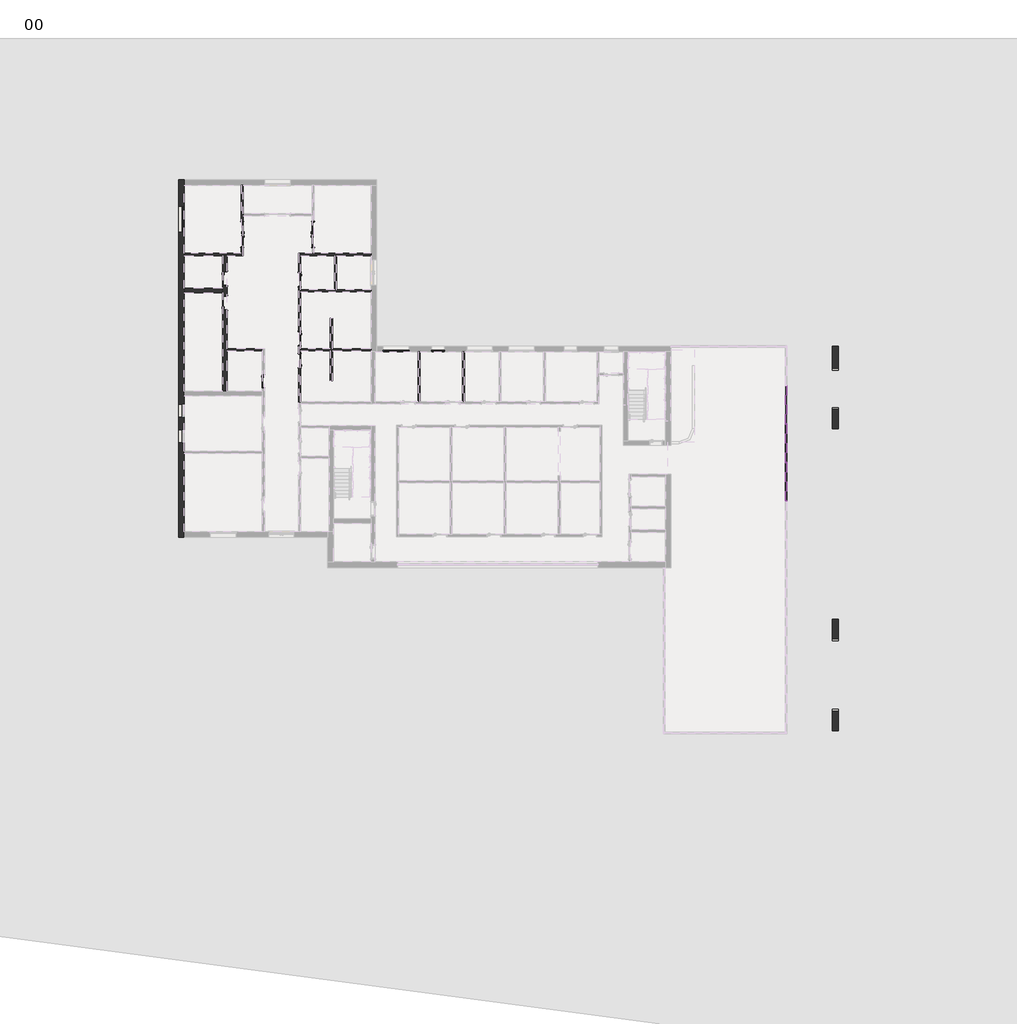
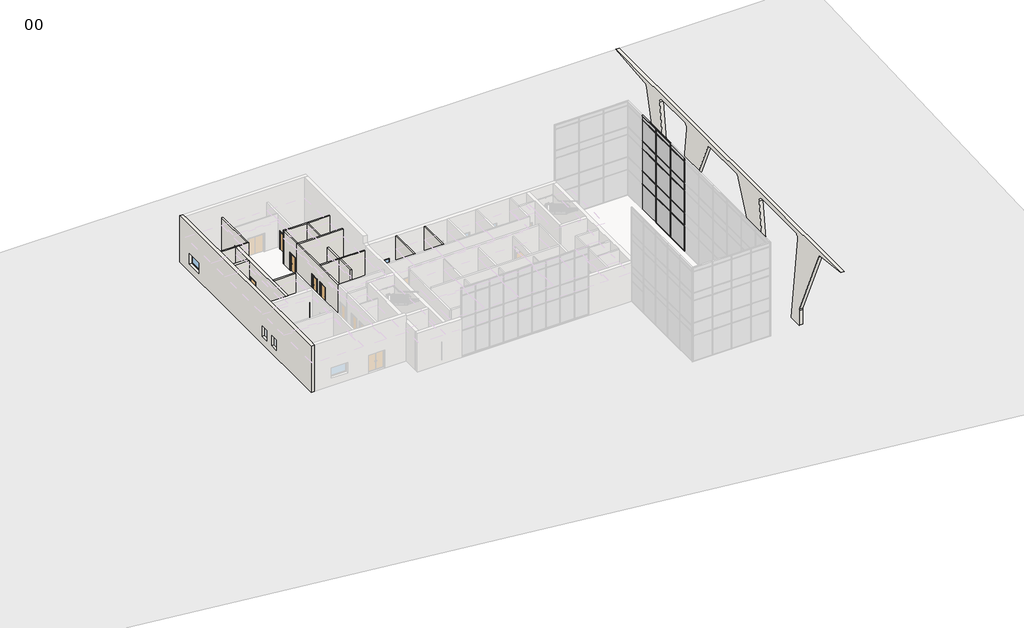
# One storey, part 6 of 11: 40 members, 18 plates, 17 walls, 8 doors, 3 windows.
"""IFC4 building model written with IfcOpenShell, lengths in millimetres."""

from ifc_helpers import new_model, si_unit, point, frame, frame_2d, origin, origin_with_axes, place, context, project, spatial, polyline, circle_curve, trimmed, segment, composite_curve, outline, extrude, faceted_brep, transform, mapped, element, save
from components import doors_intdbl_3_1810x2110mm_64ebe9ef, doors_intdbl_3_1810x2110mm_1437e5d7, doors_intsgl_1_1010x2110mm_7920e6b8, doors_intsgl_1_1010x2110mm_12a6edaf, doors_intsgl_1_1010x2110mm_5517da8e, doors_intsgl_1_1010x2110mm_5eebe40c, rectangular_mullion_curtainwallmullion_rectangular_generic_8ae0e668, rectangular_mullion_curtainwallmullion_rectangular_generic_08fbcc14, rectangular_mullion_curtainwallmullion_rectangular_generic_5675a122, rectangular_mullion_curtainwallmullion_rectangular_generic_12ad56c0, rectangular_mullion_curtainwallmullion_rectangular_generic_bd817207, rectangular_mullion_curtainwallmullion_rectangular_generic_654ac675, rectangular_mullion_curtainwallmullion_rectangular_generic_c0600e94, rectangular_mullion_curtainwallmullion_rectangular_generic_c640f651, rectangular_mullion_curtainwallmullion_rectangular_generic_b2d53351, system_panel_curtainpanel_glazed_34fb785a, system_panel_curtainpanel_glazed_62d472f1, system_panel_curtainpanel_glazed_9c2ad216, system_panel_curtainpanel_solid_fc584997, system_panel_curtainpanel_solid_60141125, system_panel_curtainpanel_solid_5de49f81, windows_concept_plain_sgl_1810x1210mm_7f7241d7, windows_concept_plain_sgl_910x1210mm_ef0b7ad2

model = new_model("IFC4")

# Units and contexts
model_context = context("Model", 3, world=origin())
ifc_project = project(units=[si_unit("LENGTHUNIT", "METRE", prefix="MILLI")], contexts=[model_context])

# Site, building, storey
site = spatial("IfcSite", under=ifc_project)
building = spatial("IfcBuilding", under=site)
storey = spatial("IfcBuildingStorey", under=building, Name="00", Elevation=0.0)

# Doors
placement = place(None, origin())
doors_intdbl_3_1810x2110mm_shape = doors_intdbl_3_1810x2110mm_64ebe9ef(model_context)
doors_intdbl_3_1810x2110mm_2_shape = doors_intdbl_3_1810x2110mm_1437e5d7(model_context)
element("IfcDoor", 1, ObjectType="Doors_IntDbl_3 : 1810x2110mm", at=placement, inside=storey, context=model_context, shape_type="MappedRepresentation", body=[
    mapped(doors_intdbl_3_1810x2110mm_shape, transform((420937.3206883, -373289.5026386, 0.0), x_axis=(0.0, 1.0, 0.0), y_axis=(-1.0, 0.0, 0.0), z_axis=(0.0, 0.0, 1.0))),
    mapped(doors_intdbl_3_1810x2110mm_2_shape, transform((420937.3206883, -373289.5026386, 0.0), x_axis=(0.0, 1.0, 0.0), y_axis=(-1.0, 0.0, 0.0), z_axis=(0.0, 0.0, 1.0))),
])
element("IfcDoor", 2, ObjectType="Doors_IntDbl_3 : 1810x2110mm", at=placement, inside=storey, context=model_context, shape_type="MappedRepresentation", body=[
    mapped(doors_intdbl_3_1810x2110mm_shape, transform((415935.3206883, -373289.5026386, 0.0), x_axis=(0.0, -1.0, 0.0), y_axis=(1.0, 0.0, 0.0), z_axis=(0.0, 0.0, 1.0))),
    mapped(doors_intdbl_3_1810x2110mm_2_shape, transform((415935.3206883, -373289.5026386, 0.0), x_axis=(0.0, -1.0, 0.0), y_axis=(1.0, 0.0, 0.0), z_axis=(0.0, 0.0, 1.0))),
])
doors_intsgl_1_1010x2110mm_shape = doors_intsgl_1_1010x2110mm_7920e6b8(model_context)
element("IfcDoor", 3, ObjectType="Doors_IntSgl_1 : 1010x2110mm", at=placement, inside=storey, context=model_context, shape_type="MappedRepresentation", body=[
    mapped(doors_intsgl_1_1010x2110mm_shape, transform((417435.3206883, -383609.0026386, 0.0), x_axis=(0.0, -1.0, 0.0), y_axis=(1.0, 0.0, 0.0), z_axis=(0.0, 0.0, 1.0))),
])
element("IfcDoor", 4, ObjectType="Doors_IntSgl_1 : 1010x2110mm", at=placement, inside=storey, context=model_context, shape_type="MappedRepresentation", body=[
    mapped(doors_intsgl_1_1010x2110mm_shape, transform((419987.3206883, -382175.0026386, 0.0), x_axis=(0.0, 1.0, 0.0), y_axis=(-1.0, 0.0, 0.0), z_axis=(0.0, 0.0, 1.0))),
])
doors_intsgl_1_1010x2110mm_2_shape = doors_intsgl_1_1010x2110mm_12a6edaf(model_context)
element("IfcDoor", 5, ObjectType="Doors_IntSgl_1 : 1010x2110mm", at=placement, inside=storey, context=model_context, shape_type="MappedRepresentation", body=[
    mapped(doors_intsgl_1_1010x2110mm_2_shape, transform((419987.3206883, -380615.0026386, 0.0), x_axis=(0.0, -1.0, 0.0), y_axis=(1.0, 0.0, 0.0), z_axis=(0.0, 0.0, 1.0))),
])
element("IfcDoor", 6, ObjectType="Doors_IntSgl_1 : 1010x2110mm", at=placement, inside=storey, context=model_context, shape_type="MappedRepresentation", body=[
    mapped(doors_intsgl_1_1010x2110mm_2_shape, transform((419987.3206883, -376459.0026386, 0.0), x_axis=(0.0, -1.0, 0.0), y_axis=(1.0, 0.0, 0.0), z_axis=(0.0, 0.0, 1.0))),
])
doors_intsgl_1_1010x2110mm_3_shape = doors_intsgl_1_1010x2110mm_5517da8e(model_context)
element("IfcDoor", 7, ObjectType="Doors_IntSgl_1 : 1010x2110mm", at=placement, inside=storey, context=model_context, shape_type="MappedRepresentation", body=[
    mapped(doors_intsgl_1_1010x2110mm_3_shape, transform((414735.3206883, -378099.0026386, 0.0), x_axis=(0.0, 1.0, 0.0), y_axis=(-1.0, 0.0, 0.0), z_axis=(0.0, 0.0, 1.0))),
])
doors_intsgl_1_1010x2110mm_4_shape = doors_intsgl_1_1010x2110mm_5eebe40c(model_context)
element("IfcDoor", 8, ObjectType="Doors_IntSgl_1 : 1010x2110mm", at=placement, inside=storey, context=model_context, shape_type="MappedRepresentation", body=[
    mapped(doors_intsgl_1_1010x2110mm_4_shape, transform((414735.3206883, -376379.0026386, 0.0), x_axis=(0.0, -1.0, 0.0), y_axis=(1.0, 0.0, 0.0), z_axis=(0.0, 0.0, 1.0))),
])

# Members
rectangular_mullion_curtainwallmullion_rectangular_generic_shape = rectangular_mullion_curtainwallmullion_rectangular_generic_8ae0e668(model_context)
element("IfcMember", 9, ObjectType="Rectangular Mullion : CurtainWallMullion_Rectangular_Generic", at=placement, inside=storey, context=model_context, shape_type="MappedRepresentation", body=[
    mapped(rectangular_mullion_curtainwallmullion_rectangular_generic_shape, transform((454246.3206883, -386624.2026388, 10486.7), x_axis=(0.0, -1.0, 0.0), y_axis=(-1.0, 0.0, 0.0), z_axis=(0.0, 0.0, -1.0))),
])
element("IfcMember", 10, ObjectType="Rectangular Mullion : CurtainWallMullion_Rectangular_Generic", at=placement, inside=storey, context=model_context, shape_type="MappedRepresentation", body=[
    mapped(rectangular_mullion_curtainwallmullion_rectangular_generic_shape, transform((454246.3206883, -389338.8026387, 10486.7), x_axis=(0.0, -1.0, 0.0), y_axis=(-1.0, 0.0, 0.0), z_axis=(0.0, 0.0, -1.0))),
])
element("IfcMember", 11, ObjectType="Rectangular Mullion : CurtainWallMullion_Rectangular_Generic", at=placement, inside=storey, context=model_context, shape_type="MappedRepresentation", body=[
    mapped(rectangular_mullion_curtainwallmullion_rectangular_generic_shape, transform((454246.3206883, -392053.4026387, 10486.7), x_axis=(0.0, -1.0, 0.0), y_axis=(-1.0, 0.0, 0.0), z_axis=(0.0, 0.0, -1.0))),
])
rectangular_mullion_curtainwallmullion_rectangular_generic_2_shape = rectangular_mullion_curtainwallmullion_rectangular_generic_08fbcc14(model_context)
element("IfcMember", 12, ObjectType="Rectangular Mullion : CurtainWallMullion_Rectangular_Generic", at=placement, inside=storey, context=model_context, shape_type="MappedRepresentation", body=[
    mapped(rectangular_mullion_curtainwallmullion_rectangular_generic_2_shape, transform((454246.3206883, -386624.2026388, 8000.0), x_axis=(0.0, -1.0, 0.0), y_axis=(-1.0, 0.0, 0.0), z_axis=(0.0, 0.0, -1.0))),
])
element("IfcMember", 13, ObjectType="Rectangular Mullion : CurtainWallMullion_Rectangular_Generic", at=placement, inside=storey, context=model_context, shape_type="MappedRepresentation", body=[
    mapped(rectangular_mullion_curtainwallmullion_rectangular_generic_2_shape, transform((454246.3206883, -389338.8026387, 8000.0), x_axis=(0.0, -1.0, 0.0), y_axis=(-1.0, 0.0, 0.0), z_axis=(0.0, 0.0, -1.0))),
])
element("IfcMember", 14, ObjectType="Rectangular Mullion : CurtainWallMullion_Rectangular_Generic", at=placement, inside=storey, context=model_context, shape_type="MappedRepresentation", body=[
    mapped(rectangular_mullion_curtainwallmullion_rectangular_generic_2_shape, transform((454246.3206883, -392053.4026387, 8000.0), x_axis=(0.0, -1.0, 0.0), y_axis=(-1.0, 0.0, 0.0), z_axis=(0.0, 0.0, -1.0))),
])
rectangular_mullion_curtainwallmullion_rectangular_generic_3_shape = rectangular_mullion_curtainwallmullion_rectangular_generic_5675a122(model_context)
element("IfcMember", 15, ObjectType="Rectangular Mullion : CurtainWallMullion_Rectangular_Generic", at=placement, inside=storey, context=model_context, shape_type="MappedRepresentation", body=[
    mapped(rectangular_mullion_curtainwallmullion_rectangular_generic_3_shape, transform((454246.3206883, -386624.2026388, 50.0), x_axis=(0.0, -1.0, 0.0), y_axis=(-1.0, 0.0, 0.0), z_axis=(0.0, 0.0, -1.0))),
])
element("IfcMember", 16, ObjectType="Rectangular Mullion : CurtainWallMullion_Rectangular_Generic", at=placement, inside=storey, context=model_context, shape_type="MappedRepresentation", body=[
    mapped(rectangular_mullion_curtainwallmullion_rectangular_generic_3_shape, transform((454246.3206883, -389338.8026387, 50.0), x_axis=(0.0, -1.0, 0.0), y_axis=(-1.0, 0.0, 0.0), z_axis=(0.0, 0.0, -1.0))),
])
element("IfcMember", 17, ObjectType="Rectangular Mullion : CurtainWallMullion_Rectangular_Generic", at=placement, inside=storey, context=model_context, shape_type="MappedRepresentation", body=[
    mapped(rectangular_mullion_curtainwallmullion_rectangular_generic_3_shape, transform((454246.3206883, -392053.4026387, 50.0), x_axis=(0.0, -1.0, 0.0), y_axis=(-1.0, 0.0, 0.0), z_axis=(0.0, 0.0, -1.0))),
])
rectangular_mullion_curtainwallmullion_rectangular_generic_4_shape = rectangular_mullion_curtainwallmullion_rectangular_generic_12ad56c0(model_context)
element("IfcMember", 18, ObjectType="Rectangular Mullion : CurtainWallMullion_Rectangular_Generic", at=placement, inside=storey, context=model_context, shape_type="MappedRepresentation", body=[
    mapped(rectangular_mullion_curtainwallmullion_rectangular_generic_4_shape, transform((454246.3206883, -386624.2026388, 11000.0), x_axis=(0.0, 0.0, 1.0), y_axis=(-1.0, 0.0, 0.0), z_axis=(0.0, -1.0, 0.0))),
])
element("IfcMember", 19, ObjectType="Rectangular Mullion : CurtainWallMullion_Rectangular_Generic", at=placement, inside=storey, context=model_context, shape_type="MappedRepresentation", body=[
    mapped(rectangular_mullion_curtainwallmullion_rectangular_generic_4_shape, transform((454246.3206883, -389338.8026387, 11000.0), x_axis=(0.0, 0.0, 1.0), y_axis=(-1.0, 0.0, 0.0), z_axis=(0.0, -1.0, 0.0))),
])
element("IfcMember", 20, ObjectType="Rectangular Mullion : CurtainWallMullion_Rectangular_Generic", at=placement, inside=storey, context=model_context, shape_type="MappedRepresentation", body=[
    mapped(rectangular_mullion_curtainwallmullion_rectangular_generic_4_shape, transform((454246.3206883, -386624.2026388, 0.0), x_axis=(0.0, 0.0, -1.0), y_axis=(-1.0, 0.0, 0.0), z_axis=(0.0, 1.0, 0.0))),
])
element("IfcMember", 21, ObjectType="Rectangular Mullion : CurtainWallMullion_Rectangular_Generic", at=placement, inside=storey, context=model_context, shape_type="MappedRepresentation", body=[
    mapped(rectangular_mullion_curtainwallmullion_rectangular_generic_4_shape, transform((454246.3206883, -389338.8026387, 0.0), x_axis=(0.0, 0.0, -1.0), y_axis=(-1.0, 0.0, 0.0), z_axis=(0.0, 1.0, 0.0))),
])
rectangular_mullion_curtainwallmullion_rectangular_generic_5_shape = rectangular_mullion_curtainwallmullion_rectangular_generic_bd817207(model_context)
element("IfcMember", 22, ObjectType="Rectangular Mullion : CurtainWallMullion_Rectangular_Generic", at=placement, inside=storey, context=model_context, shape_type="MappedRepresentation", body=[
    mapped(rectangular_mullion_curtainwallmullion_rectangular_generic_5_shape, transform((454246.3206883, -386599.2026388, 4500.0), x_axis=(0.0, 0.0, 1.0), y_axis=(-1.0, 0.0, 0.0), z_axis=(0.0, -1.0, 0.0))),
])
element("IfcMember", 23, ObjectType="Rectangular Mullion : CurtainWallMullion_Rectangular_Generic", at=placement, inside=storey, context=model_context, shape_type="MappedRepresentation", body=[
    mapped(rectangular_mullion_curtainwallmullion_rectangular_generic_5_shape, transform((454246.3206883, -389313.8026387, 4500.0), x_axis=(0.0, 0.0, 1.0), y_axis=(-1.0, 0.0, 0.0), z_axis=(0.0, -1.0, 0.0))),
])
element("IfcMember", 24, ObjectType="Rectangular Mullion : CurtainWallMullion_Rectangular_Generic", at=placement, inside=storey, context=model_context, shape_type="MappedRepresentation", body=[
    mapped(rectangular_mullion_curtainwallmullion_rectangular_generic_5_shape, transform((454246.3206883, -392028.4026387, 4500.0), x_axis=(0.0, 0.0, 1.0), y_axis=(-1.0, 0.0, 0.0), z_axis=(0.0, -1.0, 0.0))),
])
element("IfcMember", 25, ObjectType="Rectangular Mullion : CurtainWallMullion_Rectangular_Generic", at=placement, inside=storey, context=model_context, shape_type="MappedRepresentation", body=[
    mapped(rectangular_mullion_curtainwallmullion_rectangular_generic_5_shape, transform((454246.3206883, -386599.2026388, 7100.0), x_axis=(0.0, 0.0, 1.0), y_axis=(-1.0, 0.0, 0.0), z_axis=(0.0, -1.0, 0.0))),
])
element("IfcMember", 26, ObjectType="Rectangular Mullion : CurtainWallMullion_Rectangular_Generic", at=placement, inside=storey, context=model_context, shape_type="MappedRepresentation", body=[
    mapped(rectangular_mullion_curtainwallmullion_rectangular_generic_5_shape, transform((454246.3206883, -389313.8026387, 7100.0), x_axis=(0.0, 0.0, 1.0), y_axis=(-1.0, 0.0, 0.0), z_axis=(0.0, -1.0, 0.0))),
])
element("IfcMember", 27, ObjectType="Rectangular Mullion : CurtainWallMullion_Rectangular_Generic", at=placement, inside=storey, context=model_context, shape_type="MappedRepresentation", body=[
    mapped(rectangular_mullion_curtainwallmullion_rectangular_generic_5_shape, transform((454246.3206883, -392028.4026387, 7100.0), x_axis=(0.0, 0.0, 1.0), y_axis=(-1.0, 0.0, 0.0), z_axis=(0.0, -1.0, 0.0))),
])
element("IfcMember", 28, ObjectType="Rectangular Mullion : CurtainWallMullion_Rectangular_Generic", at=placement, inside=storey, context=model_context, shape_type="MappedRepresentation", body=[
    mapped(rectangular_mullion_curtainwallmullion_rectangular_generic_5_shape, transform((454246.3206883, -386599.2026388, 10486.7), x_axis=(0.0, 0.0, 1.0), y_axis=(-1.0, 0.0, 0.0), z_axis=(0.0, -1.0, 0.0))),
])
element("IfcMember", 29, ObjectType="Rectangular Mullion : CurtainWallMullion_Rectangular_Generic", at=placement, inside=storey, context=model_context, shape_type="MappedRepresentation", body=[
    mapped(rectangular_mullion_curtainwallmullion_rectangular_generic_5_shape, transform((454246.3206883, -389313.8026387, 10486.7), x_axis=(0.0, 0.0, 1.0), y_axis=(-1.0, 0.0, 0.0), z_axis=(0.0, -1.0, 0.0))),
])
element("IfcMember", 30, ObjectType="Rectangular Mullion : CurtainWallMullion_Rectangular_Generic", at=placement, inside=storey, context=model_context, shape_type="MappedRepresentation", body=[
    mapped(rectangular_mullion_curtainwallmullion_rectangular_generic_5_shape, transform((454246.3206883, -392028.4026387, 10486.7), x_axis=(0.0, 0.0, 1.0), y_axis=(-1.0, 0.0, 0.0), z_axis=(0.0, -1.0, 0.0))),
])
element("IfcMember", 31, ObjectType="Rectangular Mullion : CurtainWallMullion_Rectangular_Generic", at=placement, inside=storey, context=model_context, shape_type="MappedRepresentation", body=[
    mapped(rectangular_mullion_curtainwallmullion_rectangular_generic_5_shape, transform((454246.3206883, -386599.2026388, 8000.0), x_axis=(0.0, 0.0, 1.0), y_axis=(-1.0, 0.0, 0.0), z_axis=(0.0, -1.0, 0.0))),
])
element("IfcMember", 32, ObjectType="Rectangular Mullion : CurtainWallMullion_Rectangular_Generic", at=placement, inside=storey, context=model_context, shape_type="MappedRepresentation", body=[
    mapped(rectangular_mullion_curtainwallmullion_rectangular_generic_5_shape, transform((454246.3206883, -389313.8026387, 8000.0), x_axis=(0.0, 0.0, 1.0), y_axis=(-1.0, 0.0, 0.0), z_axis=(0.0, -1.0, 0.0))),
])
element("IfcMember", 33, ObjectType="Rectangular Mullion : CurtainWallMullion_Rectangular_Generic", at=placement, inside=storey, context=model_context, shape_type="MappedRepresentation", body=[
    mapped(rectangular_mullion_curtainwallmullion_rectangular_generic_5_shape, transform((454246.3206883, -392028.4026387, 8000.0), x_axis=(0.0, 0.0, 1.0), y_axis=(-1.0, 0.0, 0.0), z_axis=(0.0, -1.0, 0.0))),
])
element("IfcMember", 34, ObjectType="Rectangular Mullion : CurtainWallMullion_Rectangular_Generic", at=placement, inside=storey, context=model_context, shape_type="MappedRepresentation", body=[
    mapped(rectangular_mullion_curtainwallmullion_rectangular_generic_5_shape, transform((454246.3206883, -386599.2026388, 3000.0), x_axis=(0.0, 0.0, 1.0), y_axis=(-1.0, 0.0, 0.0), z_axis=(0.0, -1.0, 0.0))),
])
element("IfcMember", 35, ObjectType="Rectangular Mullion : CurtainWallMullion_Rectangular_Generic", at=placement, inside=storey, context=model_context, shape_type="MappedRepresentation", body=[
    mapped(rectangular_mullion_curtainwallmullion_rectangular_generic_5_shape, transform((454246.3206883, -389313.8026387, 3000.0), x_axis=(0.0, 0.0, 1.0), y_axis=(-1.0, 0.0, 0.0), z_axis=(0.0, -1.0, 0.0))),
])
element("IfcMember", 36, ObjectType="Rectangular Mullion : CurtainWallMullion_Rectangular_Generic", at=placement, inside=storey, context=model_context, shape_type="MappedRepresentation", body=[
    mapped(rectangular_mullion_curtainwallmullion_rectangular_generic_5_shape, transform((454246.3206883, -392028.4026387, 3000.0), x_axis=(0.0, 0.0, 1.0), y_axis=(-1.0, 0.0, 0.0), z_axis=(0.0, -1.0, 0.0))),
])
rectangular_mullion_curtainwallmullion_rectangular_generic_6_shape = rectangular_mullion_curtainwallmullion_rectangular_generic_654ac675(model_context)
element("IfcMember", 37, ObjectType="Rectangular Mullion : CurtainWallMullion_Rectangular_Generic", at=placement, inside=storey, context=model_context, shape_type="MappedRepresentation", body=[
    mapped(rectangular_mullion_curtainwallmullion_rectangular_generic_6_shape, transform((454246.3206883, -386624.2026388, 4500.0), x_axis=(0.0, -1.0, 0.0), y_axis=(-1.0, 0.0, 0.0), z_axis=(0.0, 0.0, -1.0))),
])
element("IfcMember", 38, ObjectType="Rectangular Mullion : CurtainWallMullion_Rectangular_Generic", at=placement, inside=storey, context=model_context, shape_type="MappedRepresentation", body=[
    mapped(rectangular_mullion_curtainwallmullion_rectangular_generic_6_shape, transform((454246.3206883, -389338.8026387, 4500.0), x_axis=(0.0, -1.0, 0.0), y_axis=(-1.0, 0.0, 0.0), z_axis=(0.0, 0.0, -1.0))),
])
element("IfcMember", 39, ObjectType="Rectangular Mullion : CurtainWallMullion_Rectangular_Generic", at=placement, inside=storey, context=model_context, shape_type="MappedRepresentation", body=[
    mapped(rectangular_mullion_curtainwallmullion_rectangular_generic_6_shape, transform((454246.3206883, -392053.4026387, 4500.0), x_axis=(0.0, -1.0, 0.0), y_axis=(-1.0, 0.0, 0.0), z_axis=(0.0, 0.0, -1.0))),
])
rectangular_mullion_curtainwallmullion_rectangular_generic_7_shape = rectangular_mullion_curtainwallmullion_rectangular_generic_c0600e94(model_context)
element("IfcMember", 40, ObjectType="Rectangular Mullion : CurtainWallMullion_Rectangular_Generic", at=placement, inside=storey, context=model_context, shape_type="MappedRepresentation", body=[
    mapped(rectangular_mullion_curtainwallmullion_rectangular_generic_7_shape, transform((454246.3206883, -386624.2026388, 3000.0), x_axis=(0.0, -1.0, 0.0), y_axis=(-1.0, 0.0, 0.0), z_axis=(0.0, 0.0, -1.0))),
])
element("IfcMember", 41, ObjectType="Rectangular Mullion : CurtainWallMullion_Rectangular_Generic", at=placement, inside=storey, context=model_context, shape_type="MappedRepresentation", body=[
    mapped(rectangular_mullion_curtainwallmullion_rectangular_generic_7_shape, transform((454246.3206883, -389338.8026387, 3000.0), x_axis=(0.0, -1.0, 0.0), y_axis=(-1.0, 0.0, 0.0), z_axis=(0.0, 0.0, -1.0))),
])
element("IfcMember", 42, ObjectType="Rectangular Mullion : CurtainWallMullion_Rectangular_Generic", at=placement, inside=storey, context=model_context, shape_type="MappedRepresentation", body=[
    mapped(rectangular_mullion_curtainwallmullion_rectangular_generic_7_shape, transform((454246.3206883, -392053.4026387, 3000.0), x_axis=(0.0, -1.0, 0.0), y_axis=(-1.0, 0.0, 0.0), z_axis=(0.0, 0.0, -1.0))),
])
rectangular_mullion_curtainwallmullion_rectangular_generic_8_shape = rectangular_mullion_curtainwallmullion_rectangular_generic_c640f651(model_context)
element("IfcMember", 43, ObjectType="Rectangular Mullion : CurtainWallMullion_Rectangular_Generic", at=placement, inside=storey, context=model_context, shape_type="MappedRepresentation", body=[
    mapped(rectangular_mullion_curtainwallmullion_rectangular_generic_8_shape, transform((454246.3206883, -386624.2026388, 7100.0), x_axis=(0.0, -1.0, 0.0), y_axis=(-1.0, 0.0, 0.0), z_axis=(0.0, 0.0, -1.0))),
])
element("IfcMember", 44, ObjectType="Rectangular Mullion : CurtainWallMullion_Rectangular_Generic", at=placement, inside=storey, context=model_context, shape_type="MappedRepresentation", body=[
    mapped(rectangular_mullion_curtainwallmullion_rectangular_generic_8_shape, transform((454246.3206883, -389338.8026387, 7100.0), x_axis=(0.0, -1.0, 0.0), y_axis=(-1.0, 0.0, 0.0), z_axis=(0.0, 0.0, -1.0))),
])
element("IfcMember", 45, ObjectType="Rectangular Mullion : CurtainWallMullion_Rectangular_Generic", at=placement, inside=storey, context=model_context, shape_type="MappedRepresentation", body=[
    mapped(rectangular_mullion_curtainwallmullion_rectangular_generic_8_shape, transform((454246.3206883, -392053.4026387, 7100.0), x_axis=(0.0, -1.0, 0.0), y_axis=(-1.0, 0.0, 0.0), z_axis=(0.0, 0.0, -1.0))),
])
rectangular_mullion_curtainwallmullion_rectangular_generic_9_shape = rectangular_mullion_curtainwallmullion_rectangular_generic_b2d53351(model_context)
element("IfcMember", 46, ObjectType="Rectangular Mullion : CurtainWallMullion_Rectangular_Generic", at=placement, inside=storey, context=model_context, shape_type="MappedRepresentation", body=[
    mapped(rectangular_mullion_curtainwallmullion_rectangular_generic_9_shape, transform((454246.3206883, -386624.2026388, 2425.0), x_axis=(0.0, -1.0, 0.0), y_axis=(-1.0, 0.0, 0.0), z_axis=(0.0, 0.0, -1.0))),
])
element("IfcMember", 47, ObjectType="Rectangular Mullion : CurtainWallMullion_Rectangular_Generic", at=placement, inside=storey, context=model_context, shape_type="MappedRepresentation", body=[
    mapped(rectangular_mullion_curtainwallmullion_rectangular_generic_9_shape, transform((454246.3206883, -389338.8026387, 2425.0), x_axis=(0.0, -1.0, 0.0), y_axis=(-1.0, 0.0, 0.0), z_axis=(0.0, 0.0, -1.0))),
])
element("IfcMember", 48, ObjectType="Rectangular Mullion : CurtainWallMullion_Rectangular_Generic", at=placement, inside=storey, context=model_context, shape_type="MappedRepresentation", body=[
    mapped(rectangular_mullion_curtainwallmullion_rectangular_generic_9_shape, transform((454246.3206883, -392053.4026387, 2425.0), x_axis=(0.0, -1.0, 0.0), y_axis=(-1.0, 0.0, 0.0), z_axis=(0.0, 0.0, -1.0))),
])

# Plates
system_panel_curtainpanel_glazed_shape = system_panel_curtainpanel_glazed_34fb785a(model_context)
element("IfcPlate", 49, ObjectType="System Panel : CurtainPanel_Glazed", at=placement, inside=storey, context=model_context, shape_type="MappedRepresentation", body=[
    mapped(system_panel_curtainpanel_glazed_shape, transform((454246.3206883, -385266.9026388, 8025.0), x_axis=(0.0, -1.0, 0.0), y_axis=(1.0, 0.0, 0.0), z_axis=(0.0, 0.0, 1.0))),
])
element("IfcPlate", 50, ObjectType="System Panel : CurtainPanel_Glazed", at=placement, inside=storey, context=model_context, shape_type="MappedRepresentation", body=[
    mapped(system_panel_curtainpanel_glazed_shape, transform((454246.3206883, -387981.5026388, 8025.0), x_axis=(0.0, -1.0, 0.0), y_axis=(1.0, 0.0, 0.0), z_axis=(0.0, 0.0, 1.0))),
])
element("IfcPlate", 51, ObjectType="System Panel : CurtainPanel_Glazed", at=placement, inside=storey, context=model_context, shape_type="MappedRepresentation", body=[
    mapped(system_panel_curtainpanel_glazed_shape, transform((454246.3206883, -390696.1026387, 8025.0), x_axis=(0.0, -1.0, 0.0), y_axis=(1.0, 0.0, 0.0), z_axis=(0.0, 0.0, 1.0))),
])
system_panel_curtainpanel_glazed_2_shape = system_panel_curtainpanel_glazed_62d472f1(model_context)
element("IfcPlate", 52, ObjectType="System Panel : CurtainPanel_Glazed", at=placement, inside=storey, context=model_context, shape_type="MappedRepresentation", body=[
    mapped(system_panel_curtainpanel_glazed_2_shape, transform((454246.3206883, -385266.9026388, 50.0), x_axis=(0.0, -1.0, 0.0), y_axis=(1.0, 0.0, 0.0), z_axis=(0.0, 0.0, 1.0))),
])
element("IfcPlate", 53, ObjectType="System Panel : CurtainPanel_Glazed", at=placement, inside=storey, context=model_context, shape_type="MappedRepresentation", body=[
    mapped(system_panel_curtainpanel_glazed_2_shape, transform((454246.3206883, -387981.5026388, 50.0), x_axis=(0.0, -1.0, 0.0), y_axis=(1.0, 0.0, 0.0), z_axis=(0.0, 0.0, 1.0))),
])
element("IfcPlate", 54, ObjectType="System Panel : CurtainPanel_Glazed", at=placement, inside=storey, context=model_context, shape_type="MappedRepresentation", body=[
    mapped(system_panel_curtainpanel_glazed_2_shape, transform((454246.3206883, -390696.1026387, 50.0), x_axis=(0.0, -1.0, 0.0), y_axis=(1.0, 0.0, 0.0), z_axis=(0.0, 0.0, 1.0))),
])
system_panel_curtainpanel_glazed_3_shape = system_panel_curtainpanel_glazed_9c2ad216(model_context)
element("IfcPlate", 55, ObjectType="System Panel : CurtainPanel_Glazed", at=placement, inside=storey, context=model_context, shape_type="MappedRepresentation", body=[
    mapped(system_panel_curtainpanel_glazed_3_shape, transform((454246.3206883, -385266.9026388, 4525.0), x_axis=(0.0, -1.0, 0.0), y_axis=(1.0, 0.0, 0.0), z_axis=(0.0, 0.0, 1.0))),
])
element("IfcPlate", 56, ObjectType="System Panel : CurtainPanel_Glazed", at=placement, inside=storey, context=model_context, shape_type="MappedRepresentation", body=[
    mapped(system_panel_curtainpanel_glazed_3_shape, transform((454246.3206883, -387981.5026388, 4525.0), x_axis=(0.0, -1.0, 0.0), y_axis=(1.0, 0.0, 0.0), z_axis=(0.0, 0.0, 1.0))),
])
element("IfcPlate", 57, ObjectType="System Panel : CurtainPanel_Glazed", at=placement, inside=storey, context=model_context, shape_type="MappedRepresentation", body=[
    mapped(system_panel_curtainpanel_glazed_3_shape, transform((454246.3206883, -390696.1026387, 4525.0), x_axis=(0.0, -1.0, 0.0), y_axis=(1.0, 0.0, 0.0), z_axis=(0.0, 0.0, 1.0))),
])
system_panel_curtainpanel_solid_shape = system_panel_curtainpanel_solid_fc584997(model_context)
element("IfcPlate", 58, ObjectType="System Panel : CurtainPanel_Solid", at=placement, inside=storey, context=model_context, shape_type="MappedRepresentation", body=[
    mapped(system_panel_curtainpanel_solid_shape, transform((454246.3206883, -385266.9026388, 10511.7), x_axis=(0.0, -1.0, 0.0), y_axis=(1.0, 0.0, 0.0), z_axis=(0.0, 0.0, 1.0))),
])
element("IfcPlate", 59, ObjectType="System Panel : CurtainPanel_Solid", at=placement, inside=storey, context=model_context, shape_type="MappedRepresentation", body=[
    mapped(system_panel_curtainpanel_solid_shape, transform((454246.3206883, -387981.5026388, 10511.7), x_axis=(0.0, -1.0, 0.0), y_axis=(1.0, 0.0, 0.0), z_axis=(0.0, 0.0, 1.0))),
])
element("IfcPlate", 60, ObjectType="System Panel : CurtainPanel_Solid", at=placement, inside=storey, context=model_context, shape_type="MappedRepresentation", body=[
    mapped(system_panel_curtainpanel_solid_shape, transform((454246.3206883, -390696.1026387, 10511.7), x_axis=(0.0, -1.0, 0.0), y_axis=(1.0, 0.0, 0.0), z_axis=(0.0, 0.0, 1.0))),
])
system_panel_curtainpanel_solid_2_shape = system_panel_curtainpanel_solid_60141125(model_context)
element("IfcPlate", 61, ObjectType="System Panel : CurtainPanel_Solid", at=placement, inside=storey, context=model_context, shape_type="MappedRepresentation", body=[
    mapped(system_panel_curtainpanel_solid_2_shape, transform((454246.3206883, -385266.9026388, 3025.0), x_axis=(0.0, -1.0, 0.0), y_axis=(1.0, 0.0, 0.0), z_axis=(0.0, 0.0, 1.0))),
])
element("IfcPlate", 62, ObjectType="System Panel : CurtainPanel_Solid", at=placement, inside=storey, context=model_context, shape_type="MappedRepresentation", body=[
    mapped(system_panel_curtainpanel_solid_2_shape, transform((454246.3206883, -387981.5026388, 3025.0), x_axis=(0.0, -1.0, 0.0), y_axis=(1.0, 0.0, 0.0), z_axis=(0.0, 0.0, 1.0))),
])
element("IfcPlate", 63, ObjectType="System Panel : CurtainPanel_Solid", at=placement, inside=storey, context=model_context, shape_type="MappedRepresentation", body=[
    mapped(system_panel_curtainpanel_solid_2_shape, transform((454246.3206883, -390696.1026387, 3025.0), x_axis=(0.0, -1.0, 0.0), y_axis=(1.0, 0.0, 0.0), z_axis=(0.0, 0.0, 1.0))),
])
system_panel_curtainpanel_solid_3_shape = system_panel_curtainpanel_solid_5de49f81(model_context)
element("IfcPlate", 64, ObjectType="System Panel : CurtainPanel_Solid", at=placement, inside=storey, context=model_context, shape_type="MappedRepresentation", body=[
    mapped(system_panel_curtainpanel_solid_3_shape, transform((454246.3206883, -385266.9026388, 7125.0), x_axis=(0.0, -1.0, 0.0), y_axis=(1.0, 0.0, 0.0), z_axis=(0.0, 0.0, 1.0))),
])
element("IfcPlate", 65, ObjectType="System Panel : CurtainPanel_Solid", at=placement, inside=storey, context=model_context, shape_type="MappedRepresentation", body=[
    mapped(system_panel_curtainpanel_solid_3_shape, transform((454246.3206883, -387981.5026388, 7125.0), x_axis=(0.0, -1.0, 0.0), y_axis=(1.0, 0.0, 0.0), z_axis=(0.0, 0.0, 1.0))),
])
element("IfcPlate", 66, ObjectType="System Panel : CurtainPanel_Solid", at=placement, inside=storey, context=model_context, shape_type="MappedRepresentation", body=[
    mapped(system_panel_curtainpanel_solid_3_shape, transform((454246.3206883, -390696.1026387, 7125.0), x_axis=(0.0, -1.0, 0.0), y_axis=(1.0, 0.0, 0.0), z_axis=(0.0, 0.0, 1.0))),
])

# Walls
element("IfcWall", 67, ObjectType="Wall_Exterior_WSUK", at=placement, inside=storey, context=model_context, shape_type="Brep", body=[
    faceted_brep([(411860.3206883, -394596.0026386, -1000.0), (411860.3206883, -394194.0026386, -1000.0), (411860.3206883, -369815.0026386, -1000.0), (411860.3206883, -369413.0026386, -1000.0), (411860.3206883, -369413.0026386, 5400.0), (411860.3206883, -369815.0026386, 5400.0), (411860.3206883, -394194.0026386, 5400.0), (411860.3206883, -394596.0026386, 5400.0), (411860.3206883, -371309.5026386, 2110.0), (411860.3206883, -371309.5026386, 900.0), (411860.3206883, -373119.5026386, 900.0), (411860.3206883, -373119.5026386, 2110.0), (411860.3206883, -385224.0026386, 2110.0), (411860.3206883, -385224.0026386, 900.0), (411860.3206883, -386134.0026386, 900.0), (411860.3206883, -386134.0026386, 2110.0), (411860.3206883, -387034.0026386, 2110.0), (411860.3206883, -387034.0026386, 900.0), (411860.3206883, -387944.0026386, 900.0), (411860.3206883, -387944.0026386, 2110.0), (411458.3206883, -394596.0026386, -1000.0), (411458.3206883, -394596.0026386, 5400.0), (411458.3206883, -369413.0026386, 5400.0), (411458.3206883, -369413.0026386, -1000.0), (411458.3206883, -371309.5026386, 2110.0), (411458.3206883, -373119.5026386, 2110.0), (411458.3206883, -373119.5026386, 900.0), (411458.3206883, -371309.5026386, 900.0), (411458.3206883, -385224.0026386, 2110.0), (411458.3206883, -386134.0026386, 2110.0), (411458.3206883, -386134.0026386, 900.0), (411458.3206883, -385224.0026386, 900.0), (411458.3206883, -387034.0026386, 2110.0), (411458.3206883, -387944.0026386, 2110.0), (411458.3206883, -387944.0026386, 900.0), (411458.3206883, -387034.0026386, 900.0)], [[[0, 1, 2, 3, 4, 5, 6, 7], [8, 9, 10, 11], [12, 13, 14, 15], [16, 17, 18, 19]], [[20, 21, 22, 23], [24, 25, 26, 27], [28, 29, 30, 31], [32, 33, 34, 35]], [[3, 2, 1, 0, 20, 23]], [[7, 6, 5, 4, 22, 21]], [[9, 8, 24, 27]], [[10, 9, 27, 26]], [[11, 10, 26, 25]], [[8, 11, 25, 24]], [[13, 12, 28, 31]], [[14, 13, 31, 30]], [[15, 14, 30, 29]], [[12, 15, 29, 28]], [[17, 16, 32, 35]], [[18, 17, 35, 34]], [[19, 18, 34, 33]], [[16, 19, 33, 32]], [[4, 3, 23, 22]], [[0, 7, 21, 20]]]),
])
element("IfcWall", 68, ObjectType="Wall_Interior_WSUK", at=placement, inside=storey, context=model_context, shape_type="SweptSolid", body=[
    extrude(outline(polyline([(431622.3206883, -381550.0026386), (431622.3206883, -385049.0026386), (431472.3206883, -385049.0026386), (431472.3206883, -381550.0026386), (431622.3206883, -381550.0026386)])), origin_with_axes(), (0.0, 0.0, 1.0), 4500.0),
])
element("IfcWall", 69, ObjectType="Wall_Interior_WSUK", at=placement, inside=storey, context=model_context, shape_type="SweptSolid", body=[
    extrude(outline(polyline([(428472.3206883, -381550.0026386), (428472.3206883, -385049.0026386), (428322.3206883, -385049.0026386), (428322.3206883, -381550.0026386), (428472.3206883, -381550.0026386)])), origin_with_axes(), (0.0, 0.0, 1.0), 4500.0),
])
element("IfcWall", 70, ObjectType="Wall_Interior_WSUK", at=placement, inside=storey, context=model_context, shape_type="Brep", body=[
    faceted_brep([(420062.3206883, -377314.0026386, 0.0), (425012.3206883, -377314.0026386, 0.0), (425012.3206883, -377314.0026386, 3900.0), (420062.3206883, -377314.0026386, 3900.0), (420062.3206883, -377164.0026386, 0.0), (420062.3206883, -377164.0026386, 3900.0), (422462.3206883, -377164.0026386, 3900.0), (422612.3206883, -377164.0026386, 3900.0), (425012.3206883, -377164.0026386, 3900.0), (425012.3206883, -377164.0026386, 0.0), (422612.3206883, -377164.0026386, 0.0), (422462.3206883, -377164.0026386, 0.0)], [[[0, 1, 2, 3]], [[4, 5, 6, 7, 8, 9, 10, 11]], [[1, 0, 4, 11, 10, 9]], [[3, 2, 8, 7, 6, 5]], [[0, 3, 5, 4]], [[2, 1, 9, 8]]]),
])
element("IfcWall", 71, ObjectType="Wall_Interior_WSUK", at=placement, inside=storey, context=model_context, shape_type="SweptSolid", body=[
    extrude(outline(polyline([(-377164.0026386, 3900.0), (-374764.0026386, 3900.0), (-374764.0026386, 0.0), (-375954.0026386, 0.0), (-375954.0026386, 2110.0), (-376964.0026386, 2110.0), (-376964.0026386, 0.0), (-377164.0026386, 0.0), (-377164.0026386, 3900.0)])), frame((419912.3206883, 0.0, 0.0), z_axis=(1.0, 0.0, 0.0), x_axis=(0.0, 1.0, 0.0)), (0.0, 0.0, 1.0), 150.0),
])
element("IfcWall", 72, ObjectType="Wall_Interior_WSUK", at=placement, inside=storey, context=model_context, shape_type="Brep", body=[
    faceted_brep([(420062.3206883, -377164.0026386, 3900.0), (420062.3206883, -377314.0026386, 3900.0), (420062.3206883, -381320.0026386, 3900.0), (420062.3206883, -381470.0026386, 3900.0), (420062.3206883, -385049.0026386, 3900.0), (420062.3206883, -385124.0026386, 3900.0), (420062.3206883, -385124.0026386, 0.0), (420062.3206883, -385049.0026386, 0.0), (420062.3206883, -382680.0026386, 0.0), (420062.3206883, -382680.0026386, 2110.0), (420062.3206883, -381670.0026386, 2110.0), (420062.3206883, -381670.0026386, 0.0), (420062.3206883, -381470.0026386, 0.0), (420062.3206883, -381320.0026386, 0.0), (420062.3206883, -381120.0026386, 0.0), (420062.3206883, -381120.0026386, 2110.0), (420062.3206883, -380110.0026386, 2110.0), (420062.3206883, -380110.0026386, 0.0), (420062.3206883, -377314.0026386, 0.0), (420062.3206883, -377164.0026386, 0.0), (419912.3206883, -385124.0026386, 3900.0), (419912.3206883, -377164.0026386, 3900.0), (419912.3206883, -377164.0026386, 0.0), (419912.3206883, -380110.0026386, 0.0), (419912.3206883, -380110.0026386, 2110.0), (419912.3206883, -381120.0026386, 2110.0), (419912.3206883, -381120.0026386, 0.0), (419912.3206883, -381670.0026386, 0.0), (419912.3206883, -381670.0026386, 2110.0), (419912.3206883, -382680.0026386, 2110.0), (419912.3206883, -382680.0026386, 0.0), (419912.3206883, -385124.0026386, 0.0)], [[[0, 1, 2, 3, 4, 5, 6, 7, 8, 9, 10, 11, 12, 13, 14, 15, 16, 17, 18, 19]], [[20, 21, 22, 23, 24, 25, 26, 27, 28, 29, 30, 31]], [[6, 31, 30, 8, 7]], [[22, 19, 18, 17, 23]], [[11, 27, 26, 14, 13, 12]], [[5, 4, 3, 2, 1, 0, 21, 20]], [[6, 5, 20, 31]], [[0, 19, 22, 21]], [[10, 28, 27, 11]], [[28, 10, 9, 29]], [[29, 9, 8, 30]], [[25, 15, 14, 26]], [[15, 25, 24, 16]], [[16, 24, 23, 17]]]),
])
element("IfcWall", 73, ObjectType="Wall_Exterior_WSUK 2hr", at=placement, inside=storey, context=model_context, shape_type="Brep", body=[
    faceted_brep([(414890.3206883, -374764.0026386, 3900.0), (414890.3206883, -381320.0026386, 3900.0), (414890.3206883, -381470.0026386, 3900.0), (414890.3206883, -384314.0026386, 3900.0), (414890.3206883, -384314.0026386, 0.0), (414890.3206883, -381470.0026386, 0.0), (414890.3206883, -381320.0026386, 0.0), (414890.3206883, -378604.0026386, 0.0), (414890.3206883, -378604.0026386, 2110.0), (414890.3206883, -377594.0026386, 2110.0), (414890.3206883, -377594.0026386, 0.0), (414890.3206883, -376884.0026386, 0.0), (414890.3206883, -376884.0026386, 2110.0), (414890.3206883, -375874.0026386, 2110.0), (414890.3206883, -375874.0026386, 0.0), (414890.3206883, -374764.0026386, 0.0), (414580.3206883, -384314.0026386, 3900.0), (414580.3206883, -377394.0026386, 3900.0), (414580.3206883, -377084.0026386, 3900.0), (414580.3206883, -374764.0026386, 3900.0), (414580.3206883, -374764.0026386, 0.0), (414580.3206883, -375874.0026386, 0.0), (414580.3206883, -375874.0026386, 2110.0), (414580.3206883, -376884.0026386, 2110.0), (414580.3206883, -376884.0026386, 0.0), (414580.3206883, -377084.0026386, 0.0), (414580.3206883, -377394.0026386, 0.0), (414580.3206883, -377594.0026386, 0.0), (414580.3206883, -377594.0026386, 2110.0), (414580.3206883, -378604.0026386, 2110.0), (414580.3206883, -378604.0026386, 0.0), (414580.3206883, -384314.0026386, 0.0)], [[[0, 1, 2, 3, 4, 5, 6, 7, 8, 9, 10, 11, 12, 13, 14, 15]], [[16, 17, 18, 19, 20, 21, 22, 23, 24, 25, 26, 27, 28, 29, 30, 31]], [[4, 31, 30, 7, 6, 5]], [[20, 15, 14, 21]], [[24, 11, 10, 27, 26, 25]], [[3, 2, 1, 0, 19, 18, 17, 16]], [[4, 3, 16, 31]], [[0, 15, 20, 19]], [[23, 12, 11, 24]], [[12, 23, 22, 13]], [[13, 22, 21, 14]], [[9, 28, 27, 10]], [[28, 9, 8, 29]], [[29, 8, 7, 30]]]),
])
element("IfcWall", 74, ObjectType="Wall_Interior_WSUK", at=placement, inside=storey, context=model_context, shape_type="Brep", body=[
    faceted_brep([(416010.3206883, -374614.0026386, 0.0), (415860.3206883, -374614.0026386, 0.0), (411860.3206883, -374614.0026386, 0.0), (411860.3206883, -374614.0026386, 3900.0), (415860.3206883, -374614.0026386, 3900.0), (416010.3206883, -374614.0026386, 3900.0), (416010.3206883, -374764.0026386, 0.0), (416010.3206883, -374764.0026386, 3900.0), (414890.3206883, -374764.0026386, 3900.0), (414580.3206883, -374764.0026386, 3900.0), (411860.3206883, -374764.0026386, 3900.0), (411860.3206883, -374764.0026386, 0.0), (414580.3206883, -374764.0026386, 0.0), (414890.3206883, -374764.0026386, 0.0)], [[[0, 1, 2, 3, 4, 5]], [[6, 7, 8, 9, 10, 11, 12, 13]], [[2, 1, 0, 6, 13, 12, 11]], [[5, 4, 3, 10, 9, 8, 7]], [[0, 5, 7, 6]], [[3, 2, 11, 10]]]),
])
element("IfcWall", 75, ObjectType="Wall_Interior_WSUK", at=placement, inside=storey, context=model_context, shape_type="Brep", body=[
    faceted_brep([(416010.3206883, -369815.0026386, 3900.0), (416010.3206883, -371815.0026386, 3900.0), (416010.3206883, -371965.0026386, 3900.0), (416010.3206883, -374614.0026386, 3900.0), (416010.3206883, -374614.0026386, 0.0), (416010.3206883, -374194.5026386, 0.0), (416010.3206883, -374194.5026386, 2110.0), (416010.3206883, -372384.5026386, 2110.0), (416010.3206883, -372384.5026386, 0.0), (416010.3206883, -371965.0026386, 0.0), (416010.3206883, -371815.0026386, 0.0), (416010.3206883, -369815.0026386, 0.0), (415860.3206883, -374614.0026386, 3900.0), (415860.3206883, -369815.0026386, 3900.0), (415860.3206883, -369815.0026386, 0.0), (415860.3206883, -372384.5026386, 0.0), (415860.3206883, -372384.5026386, 2110.0), (415860.3206883, -374194.5026386, 2110.0), (415860.3206883, -374194.5026386, 0.0), (415860.3206883, -374614.0026386, 0.0)], [[[0, 1, 2, 3, 4, 5, 6, 7, 8, 9, 10, 11]], [[12, 13, 14, 15, 16, 17, 18, 19]], [[14, 11, 10, 9, 8, 15]], [[4, 19, 18, 5]], [[3, 2, 1, 0, 13, 12]], [[4, 3, 12, 19]], [[0, 11, 14, 13]], [[17, 6, 5, 18]], [[6, 17, 16, 7]], [[7, 16, 15, 8]]]),
])
element("IfcWall", 76, ObjectType="Wall_Exterior_WSUK 2hr", at=placement, inside=storey, context=model_context, shape_type="SweptSolid", body=[
    extrude(outline(polyline([(414580.3206883, -377394.0026386), (411860.3206883, -377394.0026386), (411860.3206883, -377084.0026386), (414580.3206883, -377084.0026386), (414580.3206883, -377394.0026386)])), origin_with_axes(), (0.0, 0.0, 1.0), 3900.0),
])
element("IfcWall", 77, ObjectType="Wall_Interior_WSUK", at=placement, inside=storey, context=model_context, shape_type="Brep", body=[
    faceted_brep([(419912.3206883, -374764.0026386, 0.0), (420062.3206883, -374764.0026386, 0.0), (422462.3206883, -374764.0026386, 0.0), (422612.3206883, -374764.0026386, 0.0), (425012.3206883, -374764.0026386, 0.0), (425012.3206883, -374764.0026386, 3900.0), (422612.3206883, -374764.0026386, 3900.0), (422462.3206883, -374764.0026386, 3900.0), (420062.3206883, -374764.0026386, 3900.0), (419912.3206883, -374764.0026386, 3900.0), (419912.3206883, -374614.0026386, 0.0), (419912.3206883, -374614.0026386, 3900.0), (420862.3206883, -374614.0026386, 3900.0), (421012.3206883, -374614.0026386, 3900.0), (425012.3206883, -374614.0026386, 3900.0), (425012.3206883, -374614.0026386, 0.0), (421012.3206883, -374614.0026386, 0.0), (420862.3206883, -374614.0026386, 0.0)], [[[0, 1, 2, 3, 4, 5, 6, 7, 8, 9]], [[10, 11, 12, 13, 14, 15, 16, 17]], [[4, 3, 2, 1, 0, 10, 17, 16, 15]], [[9, 8, 7, 6, 5, 14, 13, 12, 11]], [[5, 4, 15, 14]], [[0, 9, 11, 10]]]),
])
element("IfcWall", 78, ObjectType="Wall_Interior_WSUK", at=placement, inside=storey, context=model_context, shape_type="SweptSolid", body=[
    extrude(outline(polyline([(422462.3206883, -377164.0026386), (422462.3206883, -374764.0026386), (422612.3206883, -374764.0026386), (422612.3206883, -377164.0026386), (422462.3206883, -377164.0026386)])), origin_with_axes(), (0.0, 0.0, 1.0), 3900.0),
])
element("IfcWall", 79, ObjectType="Wall_Interior_WSUK", at=placement, inside=storey, context=model_context, shape_type="SweptSolid", body=[
    extrude(outline(polyline([(414890.3206883, -381320.0026386), (417360.3206883, -381320.0026386), (417360.3206883, -381470.0026386), (414890.3206883, -381470.0026386), (414890.3206883, -381320.0026386)])), origin_with_axes(), (0.0, 0.0, 1.0), 3900.0),
])
element("IfcWall", 80, ObjectType="Wall_Interior_WSUK", at=placement, inside=storey, context=model_context, shape_type="Brep", body=[
    faceted_brep([(420062.3206883, -381470.0026386, 0.0), (422146.3206883, -381470.0026386, 0.0), (422296.3206883, -381470.0026386, 0.0), (425012.3206883, -381470.0026386, 0.0), (425012.3206883, -381470.0026386, 3900.0), (422296.3206883, -381470.0026386, 3900.0), (422146.3206883, -381470.0026386, 3900.0), (420062.3206883, -381470.0026386, 3900.0), (420062.3206883, -381320.0026386, 0.0), (420062.3206883, -381320.0026386, 3900.0), (422146.3206883, -381320.0026386, 3900.0), (422296.3206883, -381320.0026386, 3900.0), (425012.3206883, -381320.0026386, 3900.0), (425012.3206883, -381320.0026386, 0.0), (422296.3206883, -381320.0026386, 0.0), (422146.3206883, -381320.0026386, 0.0)], [[[0, 1, 2, 3, 4, 5, 6, 7]], [[8, 9, 10, 11, 12, 13, 14, 15]], [[3, 2, 1, 0, 8, 15, 14, 13]], [[7, 6, 5, 4, 12, 11, 10, 9]], [[0, 7, 9, 8]], [[4, 3, 13, 12]]]),
])
element("IfcWall", 81, ObjectType="Wall_Interior_WSUK", at=placement, inside=storey, context=model_context, shape_type="SweptSolid", body=[
    extrude(outline(polyline([(422146.3206883, -381320.0026386), (422146.3206883, -379195.0026386), (422296.3206883, -379195.0026386), (422296.3206883, -381320.0026386), (422146.3206883, -381320.0026386)])), origin_with_axes(), (0.0, 0.0, 1.0), 3900.0),
])
element("IfcWall", 82, ObjectType="Wall_Interior_WSUK", at=placement, inside=storey, context=model_context, shape_type="SweptSolid", body=[
    extrude(outline(polyline([(422296.3206883, -381470.0026386), (422296.3206883, -383595.0026386), (422146.3206883, -383595.0026386), (422146.3206883, -381470.0026386), (422296.3206883, -381470.0026386)])), origin_with_axes(), (0.0, 0.0, 1.0), 3900.0),
])
element("IfcWall", 83, ObjectType="Wall_Exterior_WSUK", at=placement, inside=storey, context=model_context, shape_type="SweptSolid", body=[
    extrude(outline(composite_curve([segment(polyline([(-373148.0026386, 11000.0), (-378601.3646023, 10475.3)]), True, "CONTINUOUS"), segment(trimmed(circle_curve(frame_2d((-378601.3646023, 9975.3)), 500.0), [point((-378601.3646023, 10475.3))], [point((-379086.5124654, 10096.2609478))], True, "CARTESIAN"), True, "CONTINUOUS"), segment(polyline([(-379086.5124654, 10096.2609478), (-381133.1505017, 1887.6441339)]), True, "CONTINUOUS"), segment(trimmed(circle_curve(frame_2d((-380648.0026386, 1766.6831861)), 500.0), [point((-381133.1505017, 1887.6441339))], [point((-381148.0026386, 1766.6831861))], True, "CARTESIAN"), True, "CONTINUOUS"), segment(polyline([(-381148.0026386, 1766.6831861), (-381148.0026386, 0.0), (-382843.1791511, 0.0), (-381557.225577, 9910.9639926)]), True, "CONTINUOUS"), segment(trimmed(circle_curve(frame_2d((-382053.0691795, 9975.3)), 500.0), [point((-381557.225577, 9910.9639926))], [point((-382053.0691795, 10475.3))], True, "CARTESIAN"), True, "CONTINUOUS"), segment(polyline([(-382053.0691795, 10475.3), (-386235.9360977, 10475.3)]), True, "CONTINUOUS"), segment(trimmed(circle_curve(frame_2d((-386235.9360977, 9975.3)), 500.0), [point((-386235.9360977, 10475.3))], [point((-386731.7797002, 9910.9639926))], True, "CARTESIAN"), True, "CONTINUOUS"), segment(polyline([(-386731.7797002, 9910.9639926), (-385445.8261261, 0.0), (-386970.2026386, 0.0), (-386970.2026386, 1693.295277)]), True, "CONTINUOUS"), segment(trimmed(circle_curve(frame_2d((-387470.2026386, 1693.295277)), 500.0), [point((-386970.2026386, 1693.295277))], [point((-387013.7623639, 1897.4086662))], True, "CARTESIAN"), True, "CONTINUOUS"), segment(polyline([(-387013.7623639, 1897.4086662), (-390717.3532764, 10179.4133892)]), True, "CONTINUOUS"), segment(trimmed(circle_curve(frame_2d((-391173.7935511, 9975.3)), 500.0), [point((-390717.3532764, 10179.4133892))], [point((-391173.7935511, 10475.3))], True, "CARTESIAN"), True, "CONTINUOUS"), segment(polyline([(-391173.7935511, 10475.3), (-396165.2117261, 10475.3)]), True, "CONTINUOUS"), segment(trimmed(circle_curve(frame_2d((-396165.2117261, 9975.3)), 500.0), [point((-396165.2117261, 10475.3))], [point((-396621.6520008, 10179.4133892))], True, "CARTESIAN"), True, "CONTINUOUS"), segment(polyline([(-396621.6520008, 10179.4133892), (-400325.2429133, 1897.4086662)]), True, "CONTINUOUS"), segment(trimmed(circle_curve(frame_2d((-399868.8026386, 1693.295277)), 500.0), [point((-400325.2429133, 1897.4086662))], [point((-400368.8026386, 1693.295277))], True, "CARTESIAN"), True, "CONTINUOUS"), segment(polyline([(-400368.8026386, 1693.295277), (-400368.8026386, 0.0), (-401893.1791511, 0.0), (-400607.225577, 9910.9639926)]), True, "CONTINUOUS"), segment(trimmed(circle_curve(frame_2d((-401103.0691795, 9975.3)), 500.0), [point((-400607.225577, 9910.9639926))], [point((-401103.0691795, 10475.3))], True, "CARTESIAN"), True, "CONTINUOUS"), segment(polyline([(-401103.0691795, 10475.3), (-407482.9360977, 10475.3)]), True, "CONTINUOUS"), segment(trimmed(circle_curve(frame_2d((-407482.9360977, 9975.3)), 500.0), [point((-407482.9360977, 10475.3))], [point((-407978.7797002, 9910.9639926))], True, "CARTESIAN"), True, "CONTINUOUS"), segment(polyline([(-407978.7797002, 9910.9639926), (-406692.8261261, 0.0), (-408217.2026386, 0.0), (-408217.2026386, 1693.295277)]), True, "CONTINUOUS"), segment(trimmed(circle_curve(frame_2d((-408717.2026386, 1693.295277)), 500.0), [point((-408217.2026386, 1693.295277))], [point((-408260.7623639, 1897.4086662))], True, "CARTESIAN"), True, "CONTINUOUS"), segment(polyline([(-408260.7623639, 1897.4086662), (-412008.6864906, 10278.5517384)]), True, "CONTINUOUS"), segment(trimmed(circle_curve(frame_2d((-412465.1267653, 10074.4383492)), 500.0), [point((-412008.6864906, 10278.5517384))], [point((-412465.1267653, 10574.4383492))], True, "CARTESIAN"), True, "CONTINUOUS"), segment(polyline([(-412465.1267653, 10574.4383492), (-416223.5526386, 11000.0), (-373148.0026386, 11000.0)]), True, "CONTINUOUS")], self_intersect=False)), frame((457524.3206883, 0.0, 0.0), z_axis=(1.0, 0.0, 0.0), x_axis=(0.0, 1.0, 0.0)), (0.0, 0.0, 1.0), 402.0),
])

# Windows
windows_concept_plain_sgl_1810x1210mm_shape = windows_concept_plain_sgl_1810x1210mm_7f7241d7(model_context)
element("IfcWindow", 84, ObjectType="Windows_Concept_Plain_Sgl : 1810x1210mm", at=placement, inside=storey, context=model_context, shape_type="MappedRepresentation", body=[
    mapped(windows_concept_plain_sgl_1810x1210mm_shape, transform((426788.3206883, -381340.5460708, 0.0), x_axis=(-1.0, 0.0, 0.0), y_axis=(0.0, -1.0, 0.0), z_axis=(0.0, 0.0, 1.0))),
])
element("IfcWindow", 85, ObjectType="Windows_Concept_Plain_Sgl : 1810x1210mm", at=placement, inside=storey, context=model_context, shape_type="MappedRepresentation", body=[
    mapped(windows_concept_plain_sgl_1810x1210mm_shape, transform((411650.8641205, -372214.5026386, 0.0), x_axis=(0.0, -1.0, 0.0), y_axis=(1.0, 0.0, 0.0), z_axis=(0.0, 0.0, 1.0))),
])
windows_concept_plain_sgl_910x1210mm_shape = windows_concept_plain_sgl_910x1210mm_ef0b7ad2(model_context)
element("IfcWindow", 86, ObjectType="Windows_Concept_Plain_Sgl : 910x1210mm", at=placement, inside=storey, context=model_context, shape_type="MappedRepresentation", body=[
    mapped(windows_concept_plain_sgl_910x1210mm_shape, transform((429730.3206883, -381340.5460708, 0.0), x_axis=(-1.0, 0.0, 0.0), y_axis=(0.0, -1.0, 0.0), z_axis=(0.0, 0.0, 1.0))),
])

save(model, "model.ifc")
